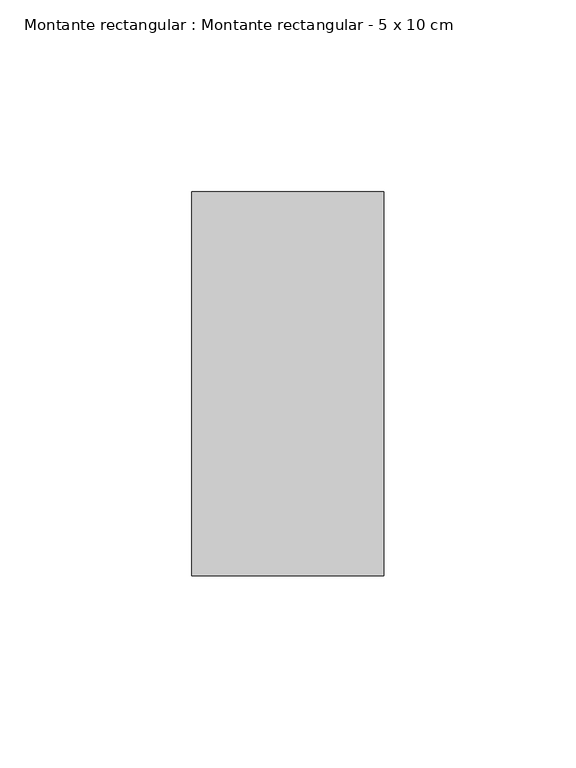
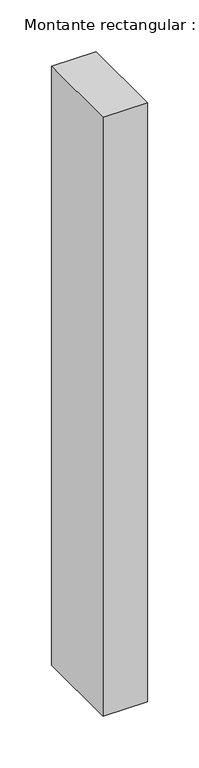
"""IFC4 building model written with IfcOpenShell, lengths in millimetres: member geometry, Montante rectangular : Montante rectangular - 5 x 10 cm."""

from ifc_helpers import new_model, si_unit, frame, origin, place, context, project, spatial, polyline, outline, extrude, source, transform, mapped, element, save


def montante_rectangular_montante_rectangular_5_x_10_cm_3baf4b6c(model_context):
    return source(origin(), model_context, "Body", "SweptSolid", [
        extrude(outline(polyline([(25.0, -50.0), (-25.0, -50.0), (-25.0, 50.0), (25.0, 50.0), (25.0, -50.0)])), frame((0.0, 0.0, -710.0), z_axis=(0.0, 0.0, 1.0), x_axis=(1.0, 0.0, 0.0)), (0.0, 0.0, 1.0), 710.0),
    ])


if __name__ == "__main__":
    model = new_model("IFC4")
    model_context = context("Model", 3, world=origin())
    ifc_project = project(units=[si_unit("LENGTHUNIT", "METRE", prefix="MILLI")], contexts=[model_context])
    site = spatial("IfcSite", under=ifc_project)
    building = spatial("IfcBuilding", under=site)
    placement = place(None, origin())
    montante_rectangular_montante_rectangular_5_x_10_cm_shape = montante_rectangular_montante_rectangular_5_x_10_cm_3baf4b6c(model_context)
    element("IfcMember", 1, ObjectType="Montante rectangular : Montante rectangular - 5 x 10 cm", at=placement, inside=building, context=model_context, shape_type="MappedRepresentation", body=[
        mapped(montante_rectangular_montante_rectangular_5_x_10_cm_shape, transform((0.0, 0.0, 0.0), x_axis=(1.0, 0.0, 0.0), y_axis=(0.0, 1.0, 0.0), z_axis=(0.0, 0.0, 1.0))),
    ])
    save(model, "model.ifc")
